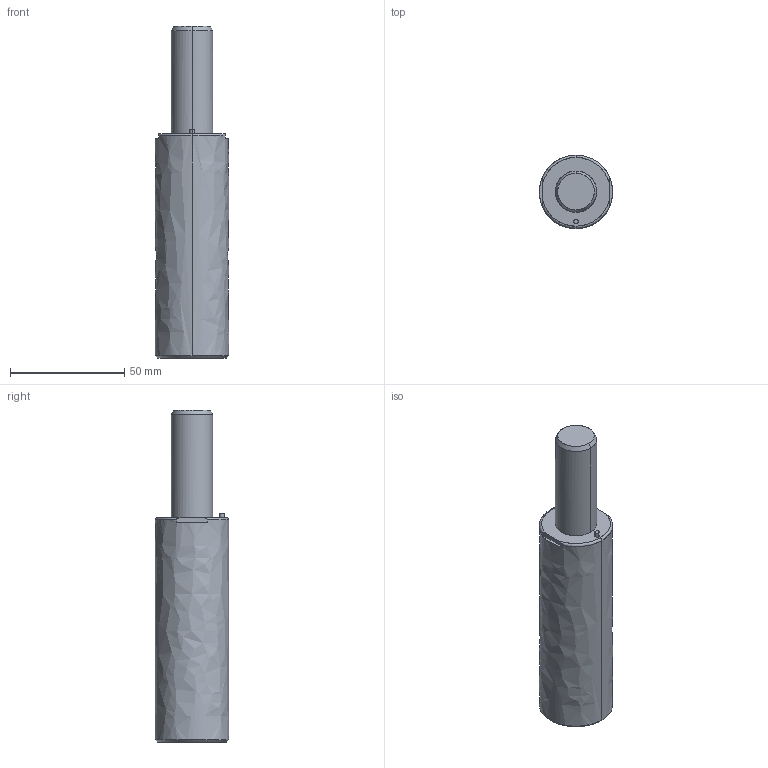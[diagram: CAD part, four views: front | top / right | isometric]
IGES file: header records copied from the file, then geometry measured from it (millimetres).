
Global section: file name: E:\UnigraphicsGraphicData\MISUMI_PRESS-PARTS\IGES\3d_gsx32-45_03974_r00.igs; native system: NX V5.0; preprocessor: UGS NX IGES V5.0; author: MISUMI; date: 20110105.160822; units: millimetre
Bounding box: 32 x 32 x 145 mm (x, y, z)
Surface area: 14873.4 mm2 (no closed solid volume)
Topology: 0 solids, 0 shells, 45 faces, 308 edges, 304 vertices
Faces by surface type: bspline 45
